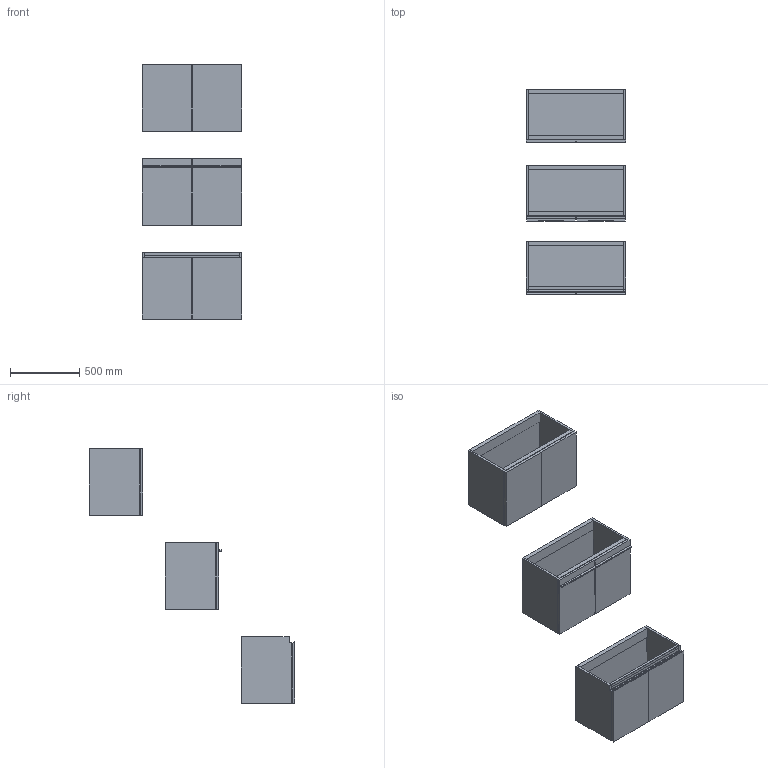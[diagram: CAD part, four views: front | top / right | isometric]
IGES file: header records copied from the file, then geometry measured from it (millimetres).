
Start section: Data from Parasolid IGES Translator 19.0.9, Copyright(c) 2006 Siemens PL M Software. All Rights Reserved.
Global section: file name: noorth-SI-H 48 D 38,8 W 72_8398.igs; native system: By Siemens PLM Incorporated; preprocessor: XPlus GENERIC/IGES 19.0.9; author: Noname; organization: Noname; date: 20200601.102028; units: metre
Bounding box: 720.1 x 1485.1 x 1840.01 mm (x, y, z)
Volume: 56639085.7 mm3; surface area: 8707771.2 mm2
Topology: 27 solids, 27 shells, 264 faces, 574 edges, 340 vertices
Faces by surface type: plane 180, cylinder 52, sphere 20, torus 12
